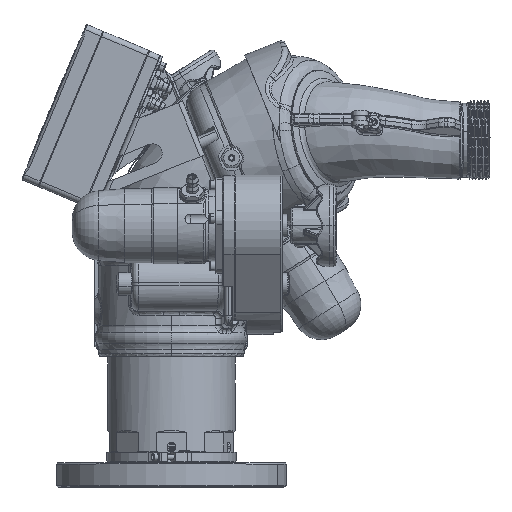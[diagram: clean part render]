
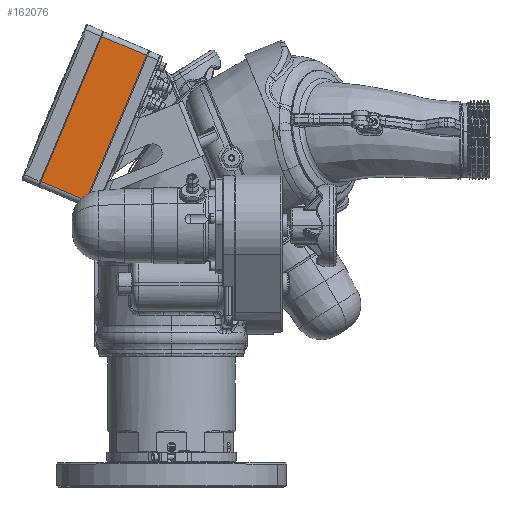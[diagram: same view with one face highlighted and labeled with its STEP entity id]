
A CAD part, top view. The second image highlights one B-rep face of the part: STEP entity #162076.
In plain terms, the highlighted planar face has unit normal (0, 0, 1).
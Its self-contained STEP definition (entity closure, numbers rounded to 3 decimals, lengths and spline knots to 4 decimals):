
#913 = CARTESIAN_POINT ( 'NONE',  ( -6.808, 1.4812, 2.8714 ) ) ;
#4960 = EDGE_CURVE ( 'NONE', #9492, #48457, #22680, .T. ) ;
#9492 = VERTEX_POINT ( 'NONE', #163204 ) ;
#16499 = VERTEX_POINT ( 'NONE', #148834 ) ;
#17790 = CARTESIAN_POINT ( 'NONE',  ( -8.5425, 2.2064, 2.8714 ) ) ;
#22680 = LINE ( 'NONE', #17790, #183075 ) ;
#32322 = CARTESIAN_POINT ( 'NONE',  ( -6.7157, 1.4426, 2.8714 ) ) ;
#41393 = LINE ( 'NONE', #59867, #152147 ) ;
#48457 = VERTEX_POINT ( 'NONE', #168601 ) ;
#59867 = CARTESIAN_POINT ( 'NONE',  ( -4.3705, 7.0521, 2.8714 ) ) ;
#69904 = CARTESIAN_POINT ( 'NONE',  ( -4.4628, 7.0907, 2.8714 ) ) ;
#69944 = PLANE ( 'NONE',  #174102 ) ;
#81570 = EDGE_CURVE ( 'NONE', #170760, #16499, #171345, .T. ) ;
#87756 = ORIENTED_EDGE ( 'NONE', *, *, #81570, .T. ) ;
#88939 = DIRECTION ( 'NONE',  ( -0.923, 0.386, 0. ) ) ;
#105644 = DIRECTION ( 'NONE',  ( 0.386, 0.923, 0. ) ) ;
#108307 = VECTOR ( 'NONE', #174450, 39.3701 ) ;
#132969 = VECTOR ( 'NONE', #156456, 39.3701 ) ;
#137592 = LINE ( 'NONE', #32322, #108307 ) ;
#145825 = FACE_OUTER_BOUND ( 'NONE', #169237, .T. ) ;
#148834 = CARTESIAN_POINT ( 'NONE',  ( -4.4628, 7.0907, 2.8714 ) ) ;
#152147 = VECTOR ( 'NONE', #88939, 39.3701 ) ;
#155865 = CARTESIAN_POINT ( 'NONE',  ( -6.7157, 1.4426, 2.8714 ) ) ;
#156456 = DIRECTION ( 'NONE',  ( 0.386, 0.923, 0. ) ) ;
#157353 = ORIENTED_EDGE ( 'NONE', *, *, #168552, .F. ) ;
#162076 = ADVANCED_FACE ( 'NONE', ( #145825 ), #69944, .T. ) ;
#163204 = CARTESIAN_POINT ( 'NONE',  ( -8.5425, 2.2064, 2.8714 ) ) ;
#165975 = ORIENTED_EDGE ( 'NONE', *, *, #4960, .F. ) ;
#168552 = EDGE_CURVE ( 'NONE', #170760, #9492, #137592, .T. ) ;
#168601 = CARTESIAN_POINT ( 'NONE',  ( -6.1973, 7.8158, 2.8714 ) ) ;
#169237 = EDGE_LOOP ( 'NONE', ( #157353, #87756, #186074, #165975 ) ) ;
#170367 = DIRECTION ( 'NONE',  ( 0., 0., 1. ) ) ;
#170760 = VERTEX_POINT ( 'NONE', #913 ) ;
#171345 = LINE ( 'NONE', #69904, #132969 ) ;
#171608 = DIRECTION ( 'NONE',  ( 0.386, 0.923, 0. ) ) ;
#174102 = AXIS2_PLACEMENT_3D ( 'NONE', #155865, #170367, #171608 ) ;
#174450 = DIRECTION ( 'NONE',  ( -0.923, 0.386, 0. ) ) ;
#175266 = EDGE_CURVE ( 'NONE', #16499, #48457, #41393, .T. ) ;
#183075 = VECTOR ( 'NONE', #105644, 39.3701 ) ;
#186074 = ORIENTED_EDGE ( 'NONE', *, *, #175266, .T. ) ;
